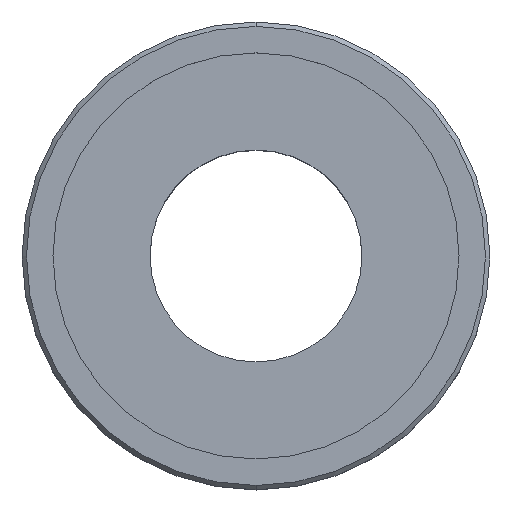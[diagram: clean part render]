
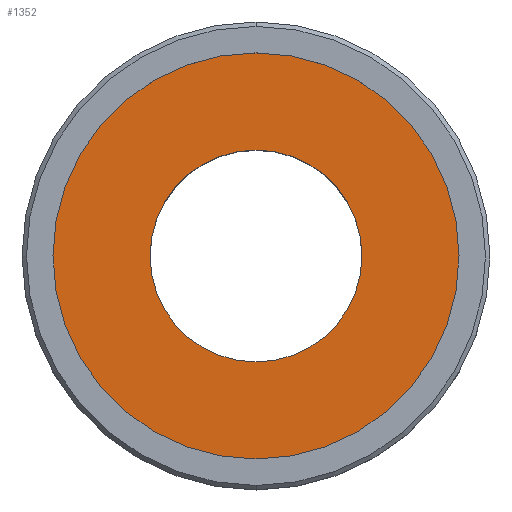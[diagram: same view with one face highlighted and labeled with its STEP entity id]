
A CAD part, top view. The second image highlights one B-rep face of the part: STEP entity #1352.
In plain terms, the highlighted planar face has unit normal (0, 0, 1).
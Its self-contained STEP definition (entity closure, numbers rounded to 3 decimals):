
#286=CARTESIAN_POINT('',(0.,0.,23.5));
#287=DIRECTION('',(0.,0.,-1.));
#288=DIRECTION('',(-1.,0.,0.));
#289=AXIS2_PLACEMENT_3D('',#286,#287,#288);
#291=CARTESIAN_POINT('',(0.,0.,23.5));
#292=DIRECTION('',(0.,0.,-1.));
#293=DIRECTION('',(1.,0.,0.));
#294=AXIS2_PLACEMENT_3D('',#291,#292,#293);
#296=CARTESIAN_POINT('',(0.,0.,23.5));
#297=DIRECTION('',(0.,0.,1.));
#298=DIRECTION('',(-1.,0.,0.));
#299=AXIS2_PLACEMENT_3D('',#296,#297,#298);
#301=CARTESIAN_POINT('',(0.,0.,23.5));
#302=DIRECTION('',(0.,0.,1.));
#303=DIRECTION('',(1.,0.,0.));
#304=AXIS2_PLACEMENT_3D('',#301,#302,#303);
#814=CARTESIAN_POINT('',(-12.,0.,23.5));
#815=CARTESIAN_POINT('',(12.,0.,23.5));
#816=VERTEX_POINT('',#814);
#817=VERTEX_POINT('',#815);
#818=CARTESIAN_POINT('',(-24.5,0.,23.5));
#819=CARTESIAN_POINT('',(24.5,0.,23.5));
#820=VERTEX_POINT('',#818);
#821=VERTEX_POINT('',#819);
#1337=CARTESIAN_POINT('',(0.,0.,23.5));
#1338=DIRECTION('',(0.,0.,1.));
#1339=DIRECTION('',(-1.,0.,0.));
#1340=AXIS2_PLACEMENT_3D('',#1337,#1338,#1339);
#1341=PLANE('',#1340);
#1343=ORIENTED_EDGE('',*,*,#1342,.F.);
#1345=ORIENTED_EDGE('',*,*,#1344,.F.);
#1346=EDGE_LOOP('',(#1343,#1345));
#1347=FACE_OUTER_BOUND('',#1346,.F.);
#1348=ORIENTED_EDGE('',*,*,#1317,.F.);
#1349=ORIENTED_EDGE('',*,*,#1331,.F.);
#1350=EDGE_LOOP('',(#1348,#1349));
#1351=FACE_BOUND('',#1350,.F.);
#290=CIRCLE('',#289,12.);
#295=CIRCLE('',#294,12.);
#300=CIRCLE('',#299,24.5);
#305=CIRCLE('',#304,24.5);
#1317=EDGE_CURVE('',#816,#817,#290,.T.);
#1331=EDGE_CURVE('',#817,#816,#295,.T.);
#1342=EDGE_CURVE('',#820,#821,#300,.T.);
#1344=EDGE_CURVE('',#821,#820,#305,.T.);
#1352=ADVANCED_FACE('',(#1347,#1351),#1341,.T.);
